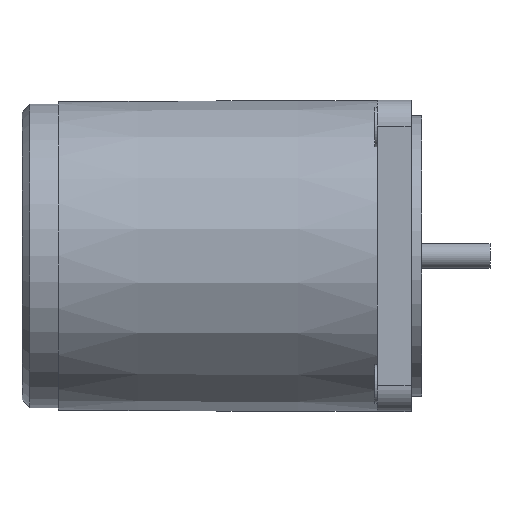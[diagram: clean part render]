
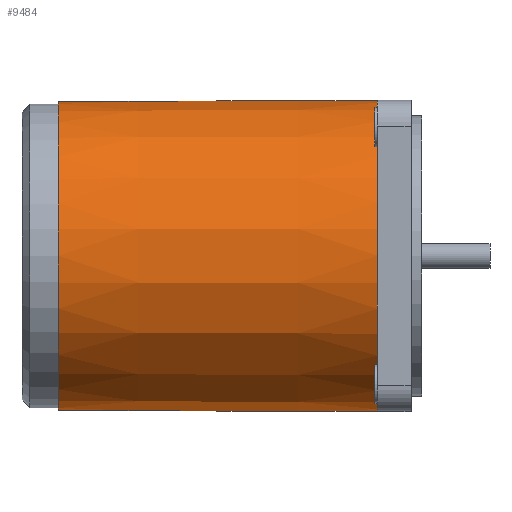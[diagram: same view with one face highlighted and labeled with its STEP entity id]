
A CAD part, top view. The second image highlights one B-rep face of the part: STEP entity #9484.
In plain terms, the highlighted conical face has half-angle 0.233 degrees and reference radius 29.875 mm.
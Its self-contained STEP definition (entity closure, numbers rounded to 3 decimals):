
#65=(
BOUNDED_CURVE()
B_SPLINE_CURVE(2,(#14482,#14483,#14484),.UNSPECIFIED.,.F.,.F.)
B_SPLINE_CURVE_WITH_KNOTS((3,3),(0.,4.2),.UNSPECIFIED.)
CURVE()
GEOMETRIC_REPRESENTATION_ITEM()
RATIONAL_B_SPLINE_CURVE((1.,1.,1.))
REPRESENTATION_ITEM('')
);
#66=(
BOUNDED_CURVE()
B_SPLINE_CURVE(2,(#14491,#14492,#14493),.UNSPECIFIED.,.F.,.F.)
B_SPLINE_CURVE_WITH_KNOTS((3,3),(0.,4.2),.UNSPECIFIED.)
CURVE()
GEOMETRIC_REPRESENTATION_ITEM()
RATIONAL_B_SPLINE_CURVE((1.,1.,1.))
REPRESENTATION_ITEM('')
);
#1746=CONICAL_SURFACE('',#10121,29.875,0.233);
#2000=FACE_BOUND('',#2738,.T.);
#2143=FACE_OUTER_BOUND('',#2737,.T.);
#2737=EDGE_LOOP('',(#6317));
#2738=EDGE_LOOP('',(#6318,#6319,#6320,#6321,#6322,#6323,#6324,#6325,#6326));
#3240=CIRCLE('',#9964,30.);
#3243=CIRCLE('',#9968,30.);
#3248=CIRCLE('',#9974,30.);
#3253=CIRCLE('',#9980,30.);
#3310=CIRCLE('',#10116,29.75);
#3313=CIRCLE('',#10122,29.829);
#3314=CIRCLE('',#10123,29.829);
#3315=CIRCLE('',#10124,29.829);
#3698=VERTEX_POINT('',#13797);
#3699=VERTEX_POINT('',#13798);
#3703=VERTEX_POINT('',#13808);
#3711=VERTEX_POINT('',#13826);
#3719=VERTEX_POINT('',#13863);
#3852=VERTEX_POINT('',#14472);
#3855=VERTEX_POINT('',#14481);
#3856=VERTEX_POINT('',#14485);
#3857=VERTEX_POINT('',#14487);
#3858=VERTEX_POINT('',#14489);
#4569=EDGE_CURVE('',#3698,#3699,#3240,.T.);
#4574=EDGE_CURVE('',#3699,#3703,#3243,.T.);
#4583=EDGE_CURVE('',#3703,#3711,#3248,.T.);
#4592=EDGE_CURVE('',#3719,#3698,#3253,.T.);
#4778=EDGE_CURVE('',#3852,#3852,#3310,.T.);
#4781=EDGE_CURVE('',#3719,#3855,#65,.T.);
#4782=EDGE_CURVE('',#3855,#3856,#3313,.T.);
#4783=EDGE_CURVE('',#3856,#3857,#3314,.T.);
#4784=EDGE_CURVE('',#3857,#3858,#3315,.T.);
#4785=EDGE_CURVE('',#3858,#3711,#66,.T.);
#6317=ORIENTED_EDGE('',*,*,#4778,.T.);
#6318=ORIENTED_EDGE('',*,*,#4781,.T.);
#6319=ORIENTED_EDGE('',*,*,#4782,.T.);
#6320=ORIENTED_EDGE('',*,*,#4783,.T.);
#6321=ORIENTED_EDGE('',*,*,#4784,.T.);
#6322=ORIENTED_EDGE('',*,*,#4785,.T.);
#6323=ORIENTED_EDGE('',*,*,#4583,.F.);
#6324=ORIENTED_EDGE('',*,*,#4574,.F.);
#6325=ORIENTED_EDGE('',*,*,#4569,.F.);
#6326=ORIENTED_EDGE('',*,*,#4592,.F.);
#9484=ADVANCED_FACE('',(#2143,#2000),#1746,.T.);
#9964=AXIS2_PLACEMENT_3D('',#13799,#11004,#11005);
#9968=AXIS2_PLACEMENT_3D('',#13809,#11014,#11015);
#9974=AXIS2_PLACEMENT_3D('',#13827,#11030,#11031);
#9980=AXIS2_PLACEMENT_3D('',#13865,#11042,#11043);
#10116=AXIS2_PLACEMENT_3D('',#14473,#11415,#11416);
#10121=AXIS2_PLACEMENT_3D('',#14480,#11425,#11426);
#10122=AXIS2_PLACEMENT_3D('',#14486,#11427,#11428);
#10123=AXIS2_PLACEMENT_3D('',#14488,#11429,#11430);
#10124=AXIS2_PLACEMENT_3D('',#14490,#11431,#11432);
#11004=DIRECTION('center_axis',(1.,0.,0.));
#11005=DIRECTION('ref_axis',(0.,1.,0.));
#11014=DIRECTION('center_axis',(1.,0.,0.));
#11015=DIRECTION('ref_axis',(0.,1.,0.));
#11030=DIRECTION('center_axis',(1.,0.,0.));
#11031=DIRECTION('ref_axis',(0.,1.,0.));
#11042=DIRECTION('center_axis',(1.,0.,0.));
#11043=DIRECTION('ref_axis',(0.,1.,0.));
#11415=DIRECTION('center_axis',(1.,0.,0.));
#11416=DIRECTION('ref_axis',(0.,1.,0.));
#11425=DIRECTION('center_axis',(1.,0.,0.));
#11426=DIRECTION('ref_axis',(0.,1.,0.));
#11427=DIRECTION('center_axis',(-1.,0.,0.));
#11428=DIRECTION('ref_axis',(0.,1.,0.));
#11429=DIRECTION('center_axis',(-1.,0.,0.));
#11430=DIRECTION('ref_axis',(0.,1.,0.));
#11431=DIRECTION('center_axis',(-1.,0.,0.));
#11432=DIRECTION('ref_axis',(0.,1.,0.));
#13797=CARTESIAN_POINT('',(68.5,30.,0.));
#13798=CARTESIAN_POINT('',(68.5,0.,30.));
#13799=CARTESIAN_POINT('Origin',(68.5,0.,0.));
#13808=CARTESIAN_POINT('',(68.5,-30.,0.));
#13809=CARTESIAN_POINT('Origin',(68.5,0.,0.));
#13826=CARTESIAN_POINT('',(68.5,-21.782,-20.628));
#13827=CARTESIAN_POINT('Origin',(68.5,0.,0.));
#13863=CARTESIAN_POINT('',(68.5,21.782,-20.628));
#13865=CARTESIAN_POINT('Origin',(68.5,0.,0.));
#14472=CARTESIAN_POINT('',(7.,29.75,0.));
#14473=CARTESIAN_POINT('Origin',(7.,0.,0.));
#14480=CARTESIAN_POINT('Origin',(37.75,0.,0.));
#14481=CARTESIAN_POINT('',(26.5,21.769,-20.393));
#14482=CARTESIAN_POINT('Ctrl Pts',(68.5,21.782,-20.628));
#14483=CARTESIAN_POINT('Ctrl Pts',(47.386,21.776,-20.51));
#14484=CARTESIAN_POINT('Ctrl Pts',(26.5,21.769,-20.393));
#14485=CARTESIAN_POINT('',(26.5,21.289,-20.894));
#14486=CARTESIAN_POINT('Origin',(26.5,0.,0.));
#14487=CARTESIAN_POINT('',(26.5,-21.289,-20.894));
#14488=CARTESIAN_POINT('Origin',(26.5,0.,0.));
#14489=CARTESIAN_POINT('',(26.5,-21.769,-20.393));
#14490=CARTESIAN_POINT('Origin',(26.5,0.,0.));
#14491=CARTESIAN_POINT('Ctrl Pts',(26.5,-21.769,-20.393));
#14492=CARTESIAN_POINT('Ctrl Pts',(47.386,-21.776,-20.51));
#14493=CARTESIAN_POINT('Ctrl Pts',(68.5,-21.782,-20.628));
